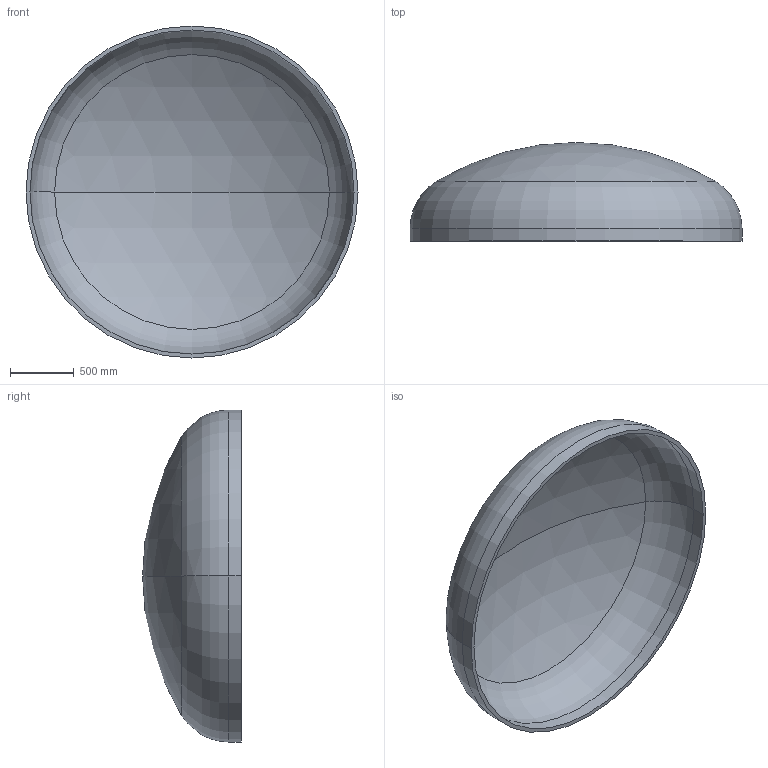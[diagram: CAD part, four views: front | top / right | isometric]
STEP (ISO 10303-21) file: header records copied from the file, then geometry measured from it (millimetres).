
FILE_DESCRIPTION (( 'STEP AP203' ), '1' );
FILE_NAME ('DIN 28013 Korbbogenform_-_Boden DIN 28013 - 2600 x 100 - I - s=31.step', '2016-07-01T16:05:24', ( '' ), ( '' ), 'SwSTEP 2.0', 'SolidWorks 2013', '' );
FILE_SCHEMA (( 'CONFIG_CONTROL_DESIGN' ));
Length unit declared in the file: millimetre
Products named in the file (1): DIN 28013 Korbbogenform_-_Boden DIN 28013 - 2600 x 100 - I - s=31
Bounding box: 2600 x 773.21 x 2600 mm (x, y, z)
Volume: 249361932.7 mm3; surface area: 16340066.9 mm2
Topology: 1 solids, 1 shells, 13 faces, 24 edges, 14 vertices
Faces by surface type: torus 4, cylinder 4, sphere 4, plane 1
Entity records: 407 total; most frequent: DIRECTION 72, CARTESIAN_POINT 52, ORIENTED_EDGE 48, AXIS2_PLACEMENT_3D 34, EDGE_CURVE 24, CIRCLE 20, VERTEX_POINT 14, EDGE_LOOP 14
